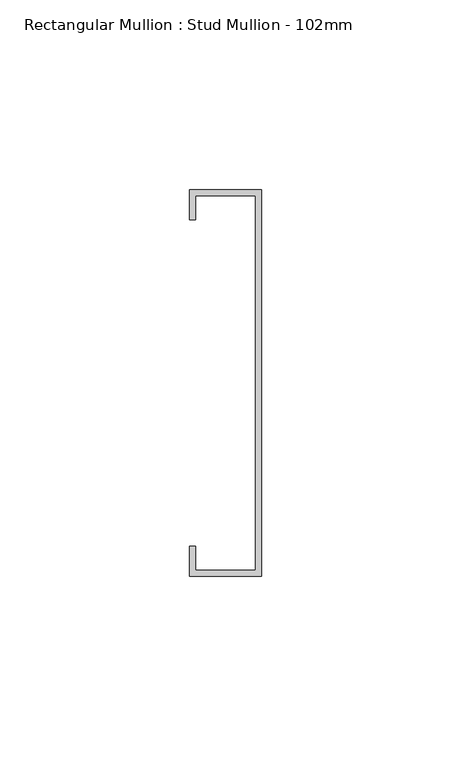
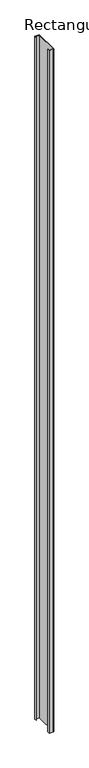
"""IFC4 building model written with IfcOpenShell, lengths in millimetres: member geometry, Rectangular Mullion : Stud Mullion - 102mm."""

from ifc_helpers import new_model, si_unit, frame, origin, place, context, project, spatial, polyline, outline, extrude, source, transform, mapped, element, save


def rectangular_mullion_stud_mullion_102mm_e6d93921(model_context):
    return source(origin(), model_context, "Body", "SweptSolid", [
        extrude(outline(polyline([(-19.0, 43.0), (-19.0, 51.0), (0.0, 51.0), (0.0, -51.0), (-19.0, -51.0), (-19.0, -43.0), (-17.4, -43.0), (-17.4, -49.4), (-1.6, -49.4), (-1.6, 49.4), (-17.4, 49.4), (-17.4, 43.0), (-19.0, 43.0)])), frame((0.0, 0.0, -3000.0), z_axis=(0.0, 0.0, 1.0), x_axis=(1.0, 0.0, 0.0)), (0.0, 0.0, 1.0), 3000.0),
    ])


if __name__ == "__main__":
    model = new_model("IFC4")
    model_context = context("Model", 3, world=origin())
    ifc_project = project(units=[si_unit("LENGTHUNIT", "METRE", prefix="MILLI")], contexts=[model_context])
    site = spatial("IfcSite", under=ifc_project)
    building = spatial("IfcBuilding", under=site)
    placement = place(None, origin())
    rectangular_mullion_stud_mullion_102mm_shape = rectangular_mullion_stud_mullion_102mm_e6d93921(model_context)
    element("IfcMember", 1, ObjectType="Rectangular Mullion : Stud Mullion - 102mm", at=placement, inside=building, context=model_context, shape_type="MappedRepresentation", body=[
        mapped(rectangular_mullion_stud_mullion_102mm_shape, transform((0.0, 0.0, 0.0), x_axis=(1.0, 0.0, 0.0), y_axis=(0.0, 1.0, 0.0), z_axis=(0.0, 0.0, 1.0))),
    ])
    save(model, "model.ifc")
